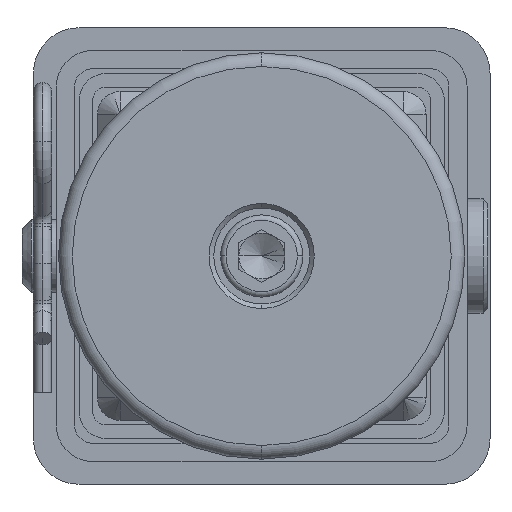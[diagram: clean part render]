
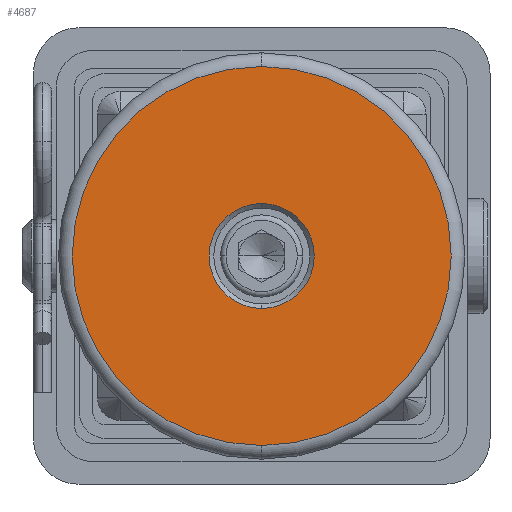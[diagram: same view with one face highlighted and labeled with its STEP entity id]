
A CAD part, front view. The second image highlights one B-rep face of the part: STEP entity #4687.
In plain terms, the highlighted planar face has unit normal (0, -1, 0).
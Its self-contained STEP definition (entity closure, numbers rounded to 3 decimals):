
#74 = DIRECTION ( 'NONE',  ( 0., -1., 0. ) ) ;
#383 = CARTESIAN_POINT ( 'NONE',  ( 0., -27.2, 41.5 ) ) ;
#533 = CARTESIAN_POINT ( 'NONE',  ( 0., -27.2, 11.5 ) ) ;
#652 = AXIS2_PLACEMENT_3D ( 'NONE', #4407, #5297, #2782 ) ;
#832 = CARTESIAN_POINT ( 'NONE',  ( 0., -27.2, 0. ) ) ;
#837 = DIRECTION ( 'NONE',  ( 0., 0., -1. ) ) ;
#1240 = ORIENTED_EDGE ( 'NONE', *, *, #8104, .T. ) ;
#1468 = FACE_OUTER_BOUND ( 'NONE', #8928, .T. ) ;
#1703 = AXIS2_PLACEMENT_3D ( 'NONE', #832, #7230, #3943 ) ;
#1884 = VERTEX_POINT ( 'NONE', #533 ) ;
#2395 = FACE_BOUND ( 'NONE', #6950, .T. ) ;
#2552 = DIRECTION ( 'NONE',  ( 0., 0., -1. ) ) ;
#2694 = CIRCLE ( 'NONE', #1703, 11.5 ) ;
#2771 = VERTEX_POINT ( 'NONE', #6933 ) ;
#2782 = DIRECTION ( 'NONE',  ( 0., 0., -1. ) ) ;
#2852 = ORIENTED_EDGE ( 'NONE', *, *, #4431, .T. ) ;
#3227 = PLANE ( 'NONE',  #3754 ) ;
#3258 = VERTEX_POINT ( 'NONE', #4524 ) ;
#3490 = ORIENTED_EDGE ( 'NONE', *, *, #6804, .T. ) ;
#3754 = AXIS2_PLACEMENT_3D ( 'NONE', #8706, #74, #837 ) ;
#3943 = DIRECTION ( 'NONE',  ( 0., 0., -1. ) ) ;
#4331 = DIRECTION ( 'NONE',  ( 0., -1., 0. ) ) ;
#4359 = AXIS2_PLACEMENT_3D ( 'NONE', #7935, #7142, #2552 ) ;
#4407 = CARTESIAN_POINT ( 'NONE',  ( 0., -27.2, 0. ) ) ;
#4431 = EDGE_CURVE ( 'NONE', #6829, #3258, #6088, .T. ) ;
#4524 = CARTESIAN_POINT ( 'NONE',  ( 0., -27.2, -41.5 ) ) ;
#4687 = ADVANCED_FACE ( 'NONE', ( #2395, #1468 ), #3227, .T. ) ;
#5297 = DIRECTION ( 'NONE',  ( 0., 1., 0. ) ) ;
#5761 = ORIENTED_EDGE ( 'NONE', *, *, #7122, .T. ) ;
#6088 = CIRCLE ( 'NONE', #7587, 41.5 ) ;
#6690 = CIRCLE ( 'NONE', #4359, 41.5 ) ;
#6804 = EDGE_CURVE ( 'NONE', #3258, #6829, #6690, .T. ) ;
#6829 = VERTEX_POINT ( 'NONE', #383 ) ;
#6933 = CARTESIAN_POINT ( 'NONE',  ( 0., -27.2, -11.5 ) ) ;
#6950 = EDGE_LOOP ( 'NONE', ( #1240, #5761 ) ) ;
#7122 = EDGE_CURVE ( 'NONE', #1884, #2771, #2694, .T. ) ;
#7142 = DIRECTION ( 'NONE',  ( 0., -1., 0. ) ) ;
#7230 = DIRECTION ( 'NONE',  ( 0., 1., 0. ) ) ;
#7587 = AXIS2_PLACEMENT_3D ( 'NONE', #9017, #4331, #9732 ) ;
#7935 = CARTESIAN_POINT ( 'NONE',  ( 0., -27.2, 0. ) ) ;
#8104 = EDGE_CURVE ( 'NONE', #2771, #1884, #9948, .T. ) ;
#8706 = CARTESIAN_POINT ( 'NONE',  ( 44.5, -27.2, 0. ) ) ;
#8928 = EDGE_LOOP ( 'NONE', ( #3490, #2852 ) ) ;
#9017 = CARTESIAN_POINT ( 'NONE',  ( 0., -27.2, 0. ) ) ;
#9732 = DIRECTION ( 'NONE',  ( 0., 0., -1. ) ) ;
#9948 = CIRCLE ( 'NONE', #652, 11.5 ) ;
